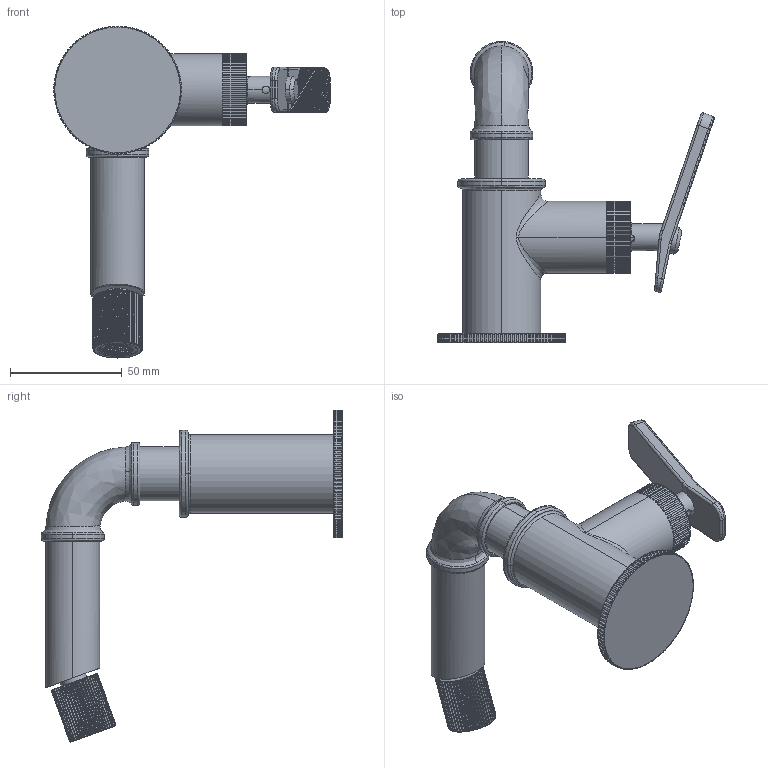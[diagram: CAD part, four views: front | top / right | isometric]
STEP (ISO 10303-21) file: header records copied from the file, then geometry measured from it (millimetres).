
FILE_DESCRIPTION (( 'STEP AP214' ), '1' );
FILE_NAME ('79401110 x architetti.STEP', '2024-11-22T13:55:53', ( '' ), ( '' ), 'SwSTEP 2.0', 'SolidWorks 2020', '' );
FILE_SCHEMA (( 'AUTOMOTIVE_DESIGN' ));
Length unit declared in the file: millimetre
Products named in the file (3): 79401110 x architetti; F0004210       
Assembly tree (2 placements, depth 2):
  79401110 x architetti
    79401110 x architetti
    F0004210       
Bounding box: 123.46 x 134.5 x 148.25 mm (x, y, z)
Surface area: 42659.4 mm2 (no closed solid volume)
Topology: 0 solids, 20 shells, 2898 faces, 7459 edges, 4752 vertices
Faces by surface type: bspline 1168, cylinder 1016, plane 535, torus 95, cone 82, sphere 2
Full cylindrical faces by diameter (mm): 15.1 x2
Entity records: 119910 total; most frequent: CARTESIAN_POINT 61587, ORIENTED_EDGE 14787, DIRECTION 7595, EDGE_CURVE 7449, VERTEX_POINT 4749, B_SPLINE_CURVE_WITH_KNOTS 4346, EDGE_LOOP 3087, AXIS2_PLACEMENT_3D 2959
